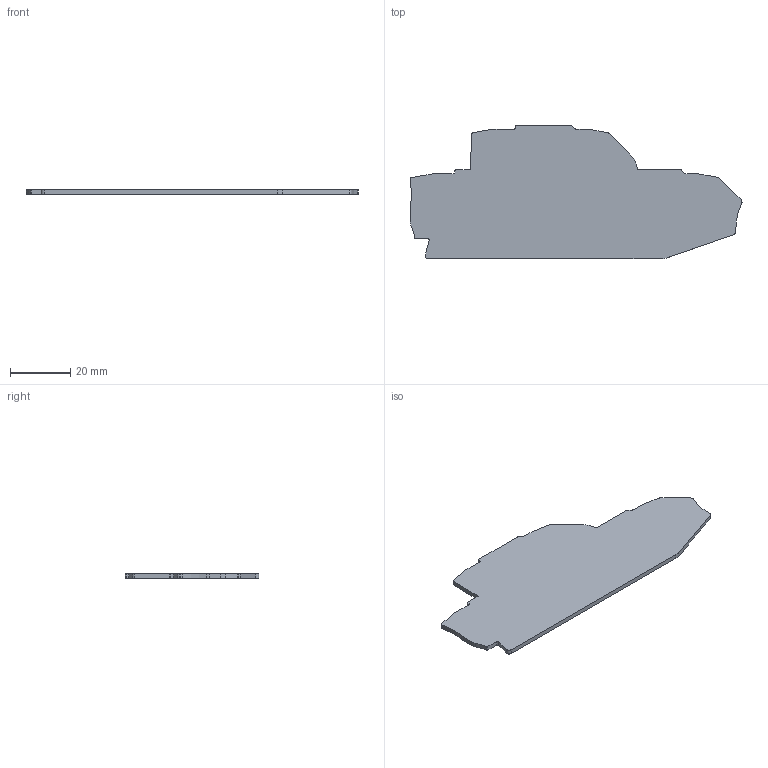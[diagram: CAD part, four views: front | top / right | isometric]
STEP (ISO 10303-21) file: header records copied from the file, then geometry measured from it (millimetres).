
FILE_DESCRIPTION(('Creo Elements/Direct Modeling STEP Export'),'2;1');
FILE_NAME('EFDS.2 PT.stp','2019-01-10T11:16:05',(''),(''),'Creo Elements/Direct Modeling STEP processor for AP214 (Solid Model)','Creo Elements/Direct Modeling 20.1 10-Mar-2018 (C) Parametric Technology GmbH','');
FILE_SCHEMA(('AUTOMOTIVE_DESIGN { 1 0 10303 214 1 1 1 1 }'));
Length unit declared in the file: millimetre
Products named in the file (2): EFDS.2 PT
Assembly tree (1 placements, depth 2):
  EFDS.2 PT
    EFDS.2 PT
Bounding box: 109.98 x 44.3 x 1.5 mm (x, y, z)
Volume: 5511.5 mm3; surface area: 7770.6 mm2
Topology: 1 solids, 1 shells, 52 faces, 150 edges, 100 vertices
Faces by surface type: plane 27, cylinder 25
Entity records: 1769 total; most frequent: DIRECTION 308, CARTESIAN_POINT 304, ORIENTED_EDGE 300, EDGE_CURVE 150, AXIS2_PLACEMENT_3D 104, VECTOR 100, LINE 100, VERTEX_POINT 100
